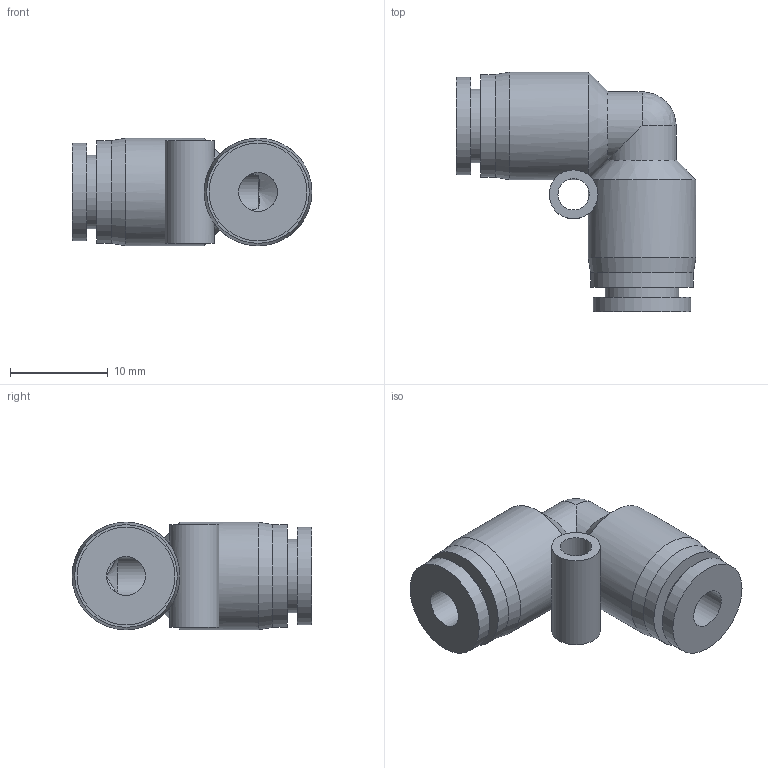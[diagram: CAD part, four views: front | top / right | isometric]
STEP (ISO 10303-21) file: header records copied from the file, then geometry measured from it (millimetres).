
FILE_DESCRIPTION(/* description */ (''),/* implementation_level */ '2;1');
FILE_NAME(/* name */ 'S:\UTecnico\ArchivioUT\Speciali Clienti\Speciali KONFIT\DISEGNI 3D\RP\RP 54\RP540004.stp',/* time_stamp */ '2014-09-20T08:29:32+02:00',/* author */ ('ut5'),/* organization */ (''),/* preprocessor_version */ 'ST-DEVELOPER v15.2',/* originating_system */ 'Autodesk Inventor 2014',/* authorisation */ '');
FILE_SCHEMA (('AUTOMOTIVE_DESIGN { 1 0 10303 214 3 1 1 }'));
Length unit declared in the file: millimetre
Products named in the file (1): RP540004
Bounding box: 24.5 x 24.5 x 11 mm (x, y, z)
Volume: 2518.4 mm3; surface area: 2166.7 mm2
Topology: 1 solids, 1 shells, 33 faces, 77 edges, 47 vertices
Faces by surface type: cylinder 17, plane 8, cone 7, sphere 1
Full cylindrical faces by diameter (mm): 3.2 x1, 4 x2, 5 x1, 7 x2, 7.5 x2, 10 x2, 10.5 x2, 11 x2
Entity records: 981 total; most frequent: CARTESIAN_POINT 314, DIRECTION 135, ORIENTED_EDGE 96, AXIS2_PLACEMENT_3D 67, EDGE_LOOP 57, EDGE_CURVE 47, VERTEX_POINT 37, FACE_BOUND 32
